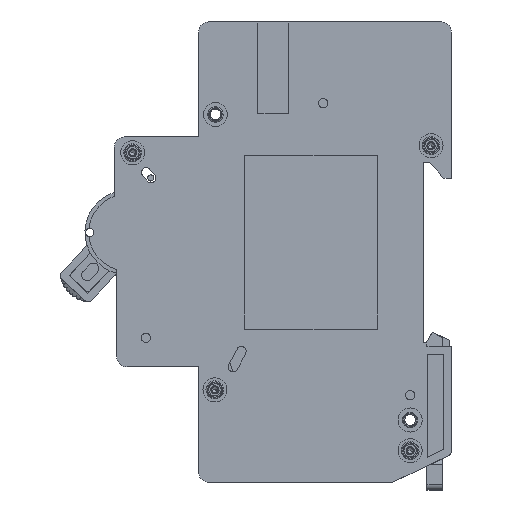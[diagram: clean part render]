
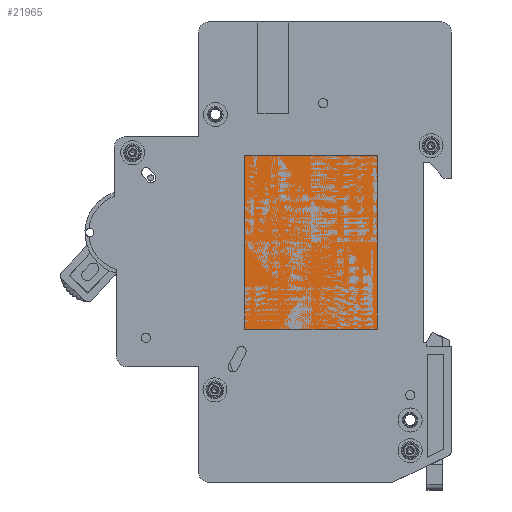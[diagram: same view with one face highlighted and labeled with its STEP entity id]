
A CAD part, left-side view. The second image highlights one B-rep face of the part: STEP entity #21965.
In plain terms, the highlighted planar face has unit normal (-1, 0, 0) as drawn and (0, 0, -1) by its records, which use the part's own axes.
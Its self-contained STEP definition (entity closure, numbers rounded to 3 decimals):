
#610 = LINE ( 'NONE', #47640, #11403 ) ;
#1586 = ORIENTED_EDGE ( 'NONE', *, *, #40164, .F. ) ;
#2734 = EDGE_LOOP ( 'NONE', ( #27020, #32826, #1586, #10514 ) ) ;
#5950 = CARTESIAN_POINT ( 'NONE',  ( 0., 26., 0. ) ) ;
#6093 = VECTOR ( 'NONE', #38470, 1000. ) ;
#6503 = VERTEX_POINT ( 'NONE', #15492 ) ;
#8975 = EDGE_CURVE ( 'NONE', #24787, #6503, #610, .T. ) ;
#9426 = LINE ( 'NONE', #28317, #17094 ) ;
#10514 = ORIENTED_EDGE ( 'NONE', *, *, #50468, .F. ) ;
#11164 = EDGE_CURVE ( 'NONE', #12524, #24787, #13110, .T. ) ;
#11403 = VECTOR ( 'NONE', #50308, 1000. ) ;
#12524 = VERTEX_POINT ( 'NONE', #44037 ) ;
#13110 = LINE ( 'NONE', #5950, #6093 ) ;
#15492 = CARTESIAN_POINT ( 'NONE',  ( 0., 0., 0. ) ) ;
#17094 = VECTOR ( 'NONE', #48029, 1000. ) ;
#18270 = AXIS2_PLACEMENT_3D ( 'NONE', #20822, #33124, #41241 ) ;
#18915 = CARTESIAN_POINT ( 'NONE',  ( 34., 0., 0. ) ) ;
#20822 = CARTESIAN_POINT ( 'NONE',  ( 0., 0., 0. ) ) ;
#21965 = ADVANCED_FACE ( 'NONE', ( #22769 ), #29565, .T. ) ;
#22769 = FACE_OUTER_BOUND ( 'NONE', #2734, .T. ) ;
#23982 = LINE ( 'NONE', #18915, #41152 ) ;
#24339 = CARTESIAN_POINT ( 'NONE',  ( 0., 26., 0. ) ) ;
#24787 = VERTEX_POINT ( 'NONE', #24339 ) ;
#27020 = ORIENTED_EDGE ( 'NONE', *, *, #8975, .F. ) ;
#28317 = CARTESIAN_POINT ( 'NONE',  ( 0., 0., 0. ) ) ;
#29565 = PLANE ( 'NONE',  #18270 ) ;
#31371 = DIRECTION ( 'NONE',  ( 0., 1., 0. ) ) ;
#32826 = ORIENTED_EDGE ( 'NONE', *, *, #11164, .F. ) ;
#33124 = DIRECTION ( 'NONE',  ( 0., 0., -1. ) ) ;
#33897 = CARTESIAN_POINT ( 'NONE',  ( 34., 0., 0. ) ) ;
#35411 = VERTEX_POINT ( 'NONE', #33897 ) ;
#38470 = DIRECTION ( 'NONE',  ( -1., 0., 0. ) ) ;
#40164 = EDGE_CURVE ( 'NONE', #35411, #12524, #23982, .T. ) ;
#41152 = VECTOR ( 'NONE', #31371, 1000. ) ;
#41241 = DIRECTION ( 'NONE',  ( 0., -1., 0. ) ) ;
#44037 = CARTESIAN_POINT ( 'NONE',  ( 34., 26., 0. ) ) ;
#47640 = CARTESIAN_POINT ( 'NONE',  ( 0., 0., 0. ) ) ;
#48029 = DIRECTION ( 'NONE',  ( 1., 0., 0. ) ) ;
#50308 = DIRECTION ( 'NONE',  ( 0., -1., 0. ) ) ;
#50468 = EDGE_CURVE ( 'NONE', #6503, #35411, #9426, .T. ) ;
